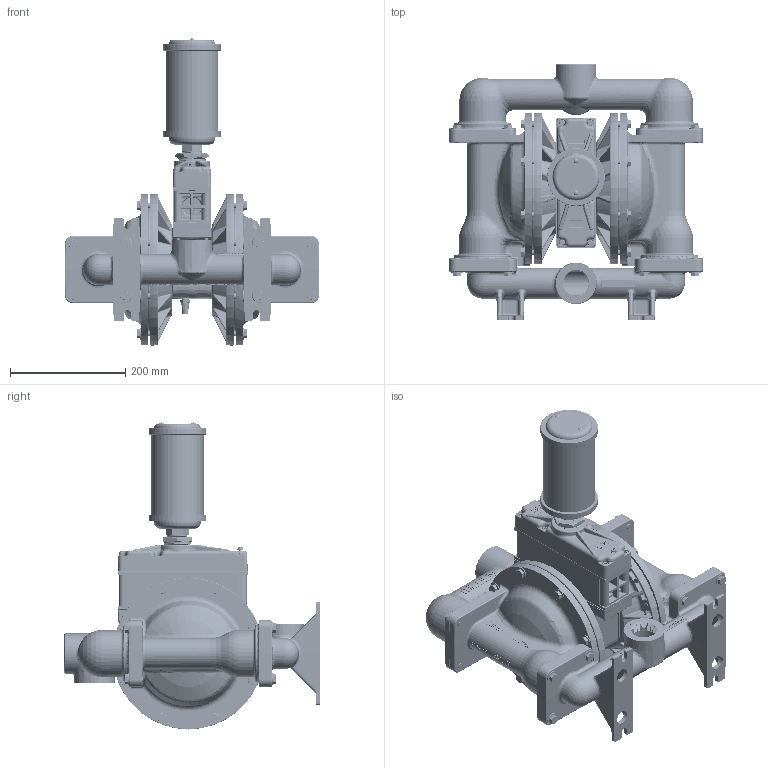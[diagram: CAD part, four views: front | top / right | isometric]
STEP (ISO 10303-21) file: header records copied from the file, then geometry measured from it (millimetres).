
FILE_DESCRIPTION((''),'2;1');
FILE_NAME('PS420_DI_TOP_SW0002','2016-10-17T',('Nathan.hale'),(''),'PRO/ENGINEER BY PARAMETRIC TECHNOLOGY CORPORATION, 2015360','PRO/ENGINEER BY PARAMETRIC TECHNOLOGY CORPORATION, 2015360','');
FILE_SCHEMA(('CONFIG_CONTROL_DESIGN'));
Length unit declared in the file: inch
Products named in the file (1): PS420_DI_TOP_SW0002
Bounding box: 442.46 x 444.38 x 533.53 mm (x, y, z)
Volume: 7813431.6 mm3; surface area: 1768494.5 mm2
Topology: 1 solids, 4 shells, 20492 faces, 53585 edges, 33677 vertices
Faces by surface type: plane 12099, bspline 2966, cylinder 2019, torus 1423, cone 1265, sphere 573, extrusion 147
Entity records: 1142325 total; most frequent: CARTESIAN_POINT 664656, ORIENTED_EDGE 106702, DIRECTION 88495, EDGE_CURVE 53351, VERTEX_POINT 33677, VECTOR 33015, LINE 32868, AXIS2_PLACEMENT_3D 27740
